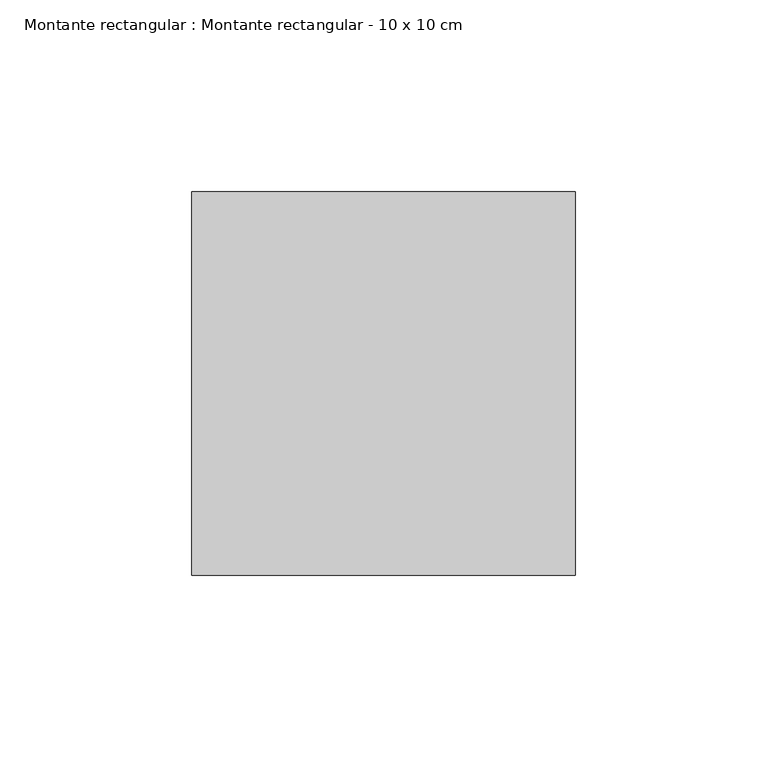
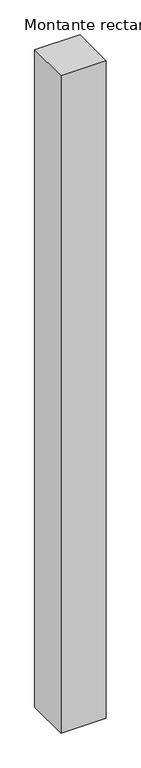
"""IFC4 building model written with IfcOpenShell, lengths in millimetres: member geometry, Montante rectangular : Montante rectangular - 10 x 10 cm."""

from ifc_helpers import new_model, si_unit, frame, origin, place, context, project, spatial, polyline, outline, extrude, source, transform, mapped, element, save


def montante_rectangular_montante_rectangular_10_x_10_cm_fe9984d1(model_context):
    return source(origin(), model_context, "Body", "SweptSolid", [
        extrude(outline(polyline([(0.0, -50.0), (-100.0, -50.0), (-100.0, 50.0), (0.0, 50.0), (0.0, -50.0)])), frame((0.0, 0.0, -1530.9540566), z_axis=(0.0, 0.0, 1.0), x_axis=(1.0, 0.0, 0.0)), (0.0, 0.0, 1.0), 1530.9540566),
    ])


if __name__ == "__main__":
    model = new_model("IFC4")
    model_context = context("Model", 3, world=origin())
    ifc_project = project(units=[si_unit("LENGTHUNIT", "METRE", prefix="MILLI")], contexts=[model_context])
    site = spatial("IfcSite", under=ifc_project)
    building = spatial("IfcBuilding", under=site)
    placement = place(None, origin())
    montante_rectangular_montante_rectangular_10_x_10_cm_shape = montante_rectangular_montante_rectangular_10_x_10_cm_fe9984d1(model_context)
    element("IfcMember", 1, ObjectType="Montante rectangular : Montante rectangular - 10 x 10 cm", at=placement, inside=building, context=model_context, shape_type="MappedRepresentation", body=[
        mapped(montante_rectangular_montante_rectangular_10_x_10_cm_shape, transform((0.0, 0.0, 0.0), x_axis=(1.0, 0.0, 0.0), y_axis=(0.0, 1.0, 0.0), z_axis=(0.0, 0.0, 1.0))),
    ])
    save(model, "model.ifc")
